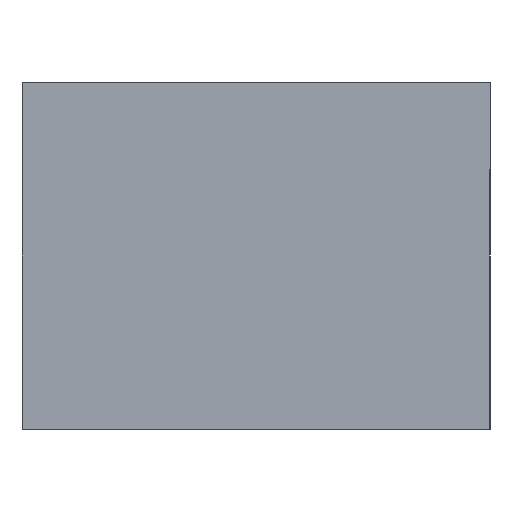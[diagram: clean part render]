
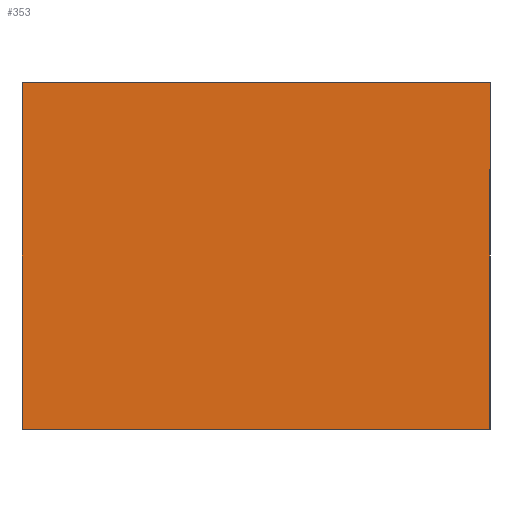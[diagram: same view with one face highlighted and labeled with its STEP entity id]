
A CAD part, front view. The second image highlights one B-rep face of the part: STEP entity #353.
In plain terms, the highlighted planar face has unit normal (0, -1, 0).
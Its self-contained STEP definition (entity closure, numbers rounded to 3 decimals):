
#9 = ORIENTED_EDGE ( 'NONE', *, *, #1294, .F. ) ;
#13 = VECTOR ( 'NONE', #1492, 1000. ) ;
#41 = DIRECTION ( 'NONE',  ( 0., 0., -1. ) ) ;
#99 = CARTESIAN_POINT ( 'NONE',  ( 42.5, 0., 31.5 ) ) ;
#159 = FACE_OUTER_BOUND ( 'NONE', #1558, .T. ) ;
#210 = LINE ( 'NONE', #2244, #2043 ) ;
#323 = CARTESIAN_POINT ( 'NONE',  ( -42.5, 0., 31.5 ) ) ;
#353 = ADVANCED_FACE ( 'NONE', ( #159 ), #768, .F. ) ;
#552 = ORIENTED_EDGE ( 'NONE', *, *, #1145, .F. ) ;
#580 = EDGE_CURVE ( 'NONE', #2098, #1221, #1425, .T. ) ;
#648 = VECTOR ( 'NONE', #1333, 1000. ) ;
#709 = CARTESIAN_POINT ( 'NONE',  ( -42.5, 0., -31.5 ) ) ;
#768 = PLANE ( 'NONE',  #953 ) ;
#785 = CARTESIAN_POINT ( 'NONE',  ( 0., 0., 0. ) ) ;
#799 = DIRECTION ( 'NONE',  ( 0., 1., 0. ) ) ;
#805 = DIRECTION ( 'NONE',  ( 0., 0., 1. ) ) ;
#926 = VECTOR ( 'NONE', #41, 1000. ) ;
#953 = AXIS2_PLACEMENT_3D ( 'NONE', #785, #799, #805 ) ;
#966 = EDGE_CURVE ( 'NONE', #2224, #2023, #210, .T. ) ;
#1130 = LINE ( 'NONE', #709, #648 ) ;
#1145 = EDGE_CURVE ( 'NONE', #1221, #2224, #1807, .T. ) ;
#1176 = CARTESIAN_POINT ( 'NONE',  ( 42.5, 0., -31.5 ) ) ;
#1221 = VERTEX_POINT ( 'NONE', #99 ) ;
#1294 = EDGE_CURVE ( 'NONE', #2023, #2098, #1130, .T. ) ;
#1323 = ORIENTED_EDGE ( 'NONE', *, *, #966, .F. ) ;
#1333 = DIRECTION ( 'NONE',  ( 0., 0., 1. ) ) ;
#1425 = LINE ( 'NONE', #1481, #13 ) ;
#1481 = CARTESIAN_POINT ( 'NONE',  ( -42.5, 0., 31.5 ) ) ;
#1492 = DIRECTION ( 'NONE',  ( 1., 0., 0. ) ) ;
#1534 = CARTESIAN_POINT ( 'NONE',  ( -42.5, 0., -31.5 ) ) ;
#1558 = EDGE_LOOP ( 'NONE', ( #552, #1867, #9, #1323 ) ) ;
#1807 = LINE ( 'NONE', #1176, #926 ) ;
#1867 = ORIENTED_EDGE ( 'NONE', *, *, #580, .F. ) ;
#2023 = VERTEX_POINT ( 'NONE', #1534 ) ;
#2043 = VECTOR ( 'NONE', #2296, 1000. ) ;
#2098 = VERTEX_POINT ( 'NONE', #323 ) ;
#2224 = VERTEX_POINT ( 'NONE', #2282 ) ;
#2244 = CARTESIAN_POINT ( 'NONE',  ( -42.5, 0., -31.5 ) ) ;
#2282 = CARTESIAN_POINT ( 'NONE',  ( 42.5, 0., -31.5 ) ) ;
#2296 = DIRECTION ( 'NONE',  ( -1., 0., 0. ) ) ;
